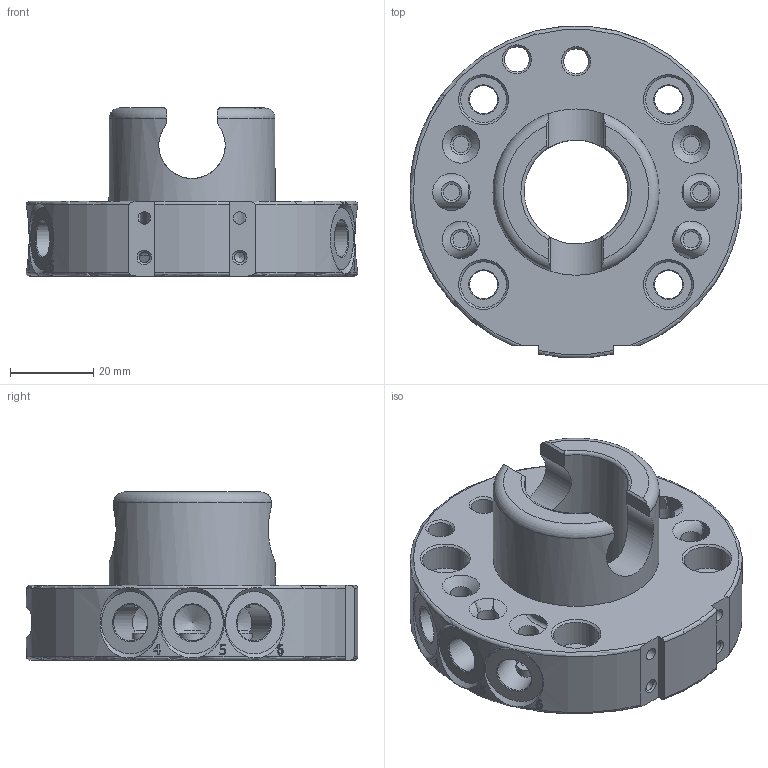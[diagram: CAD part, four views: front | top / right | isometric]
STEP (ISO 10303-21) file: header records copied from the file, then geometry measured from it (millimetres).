
FILE_DESCRIPTION(/* description */ (''),/* implementation_level */ '2;1');
FILE_NAME(/* name */ 'G-SHS080-U-A063.stp',/* time_stamp */ '2024-05-24T11:27:54+02:00',/* author */ ('ysplieth'),/* organization */ (''),/* preprocessor_version */ 'ST-DEVELOPER v20',/* originating_system */ 'Autodesk Inventor 2024',/* authorisation */ '');
FILE_SCHEMA (('AUTOMOTIVE_DESIGN { 1 0 10303 214 3 1 1 }'));
Products named in the file (1): Bauteil1
Bounding box: 79.91 x 79.85 x 40.5 mm (x, y, z)
Volume: 78585.7 mm3; surface area: 24254.8 mm2
Topology: 1 solids, 1 shells, 555 faces, 1500 edges, 990 vertices
Faces by surface type: plane 208, bspline 198, cone 78, cylinder 61, torus 10
Full cylindrical faces by diameter (mm): 2.5 x2, 3 x2, 5 x6, 6 x8, 6.75 x4, 8.7 x1, 8.8 x5, 9 x6, 11 x4, 25 x1, 40 x2
Entity records: 37557 total; most frequent: CARTESIAN_POINT 24556, ORIENTED_EDGE 2948, DIRECTION 1860, EDGE_CURVE 1474, VERTEX_POINT 985, LINE 674, VECTOR 674, EDGE_LOOP 645
